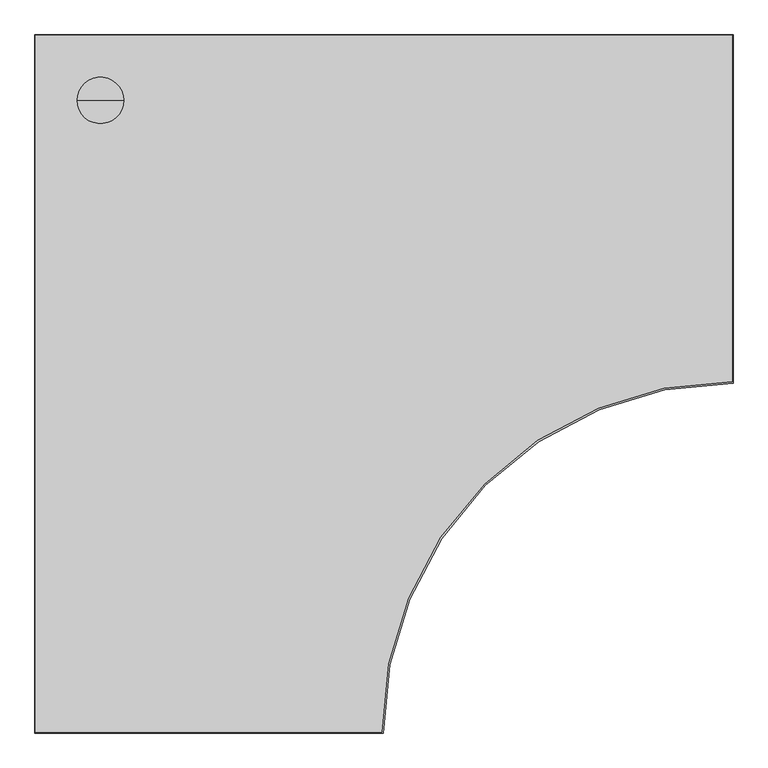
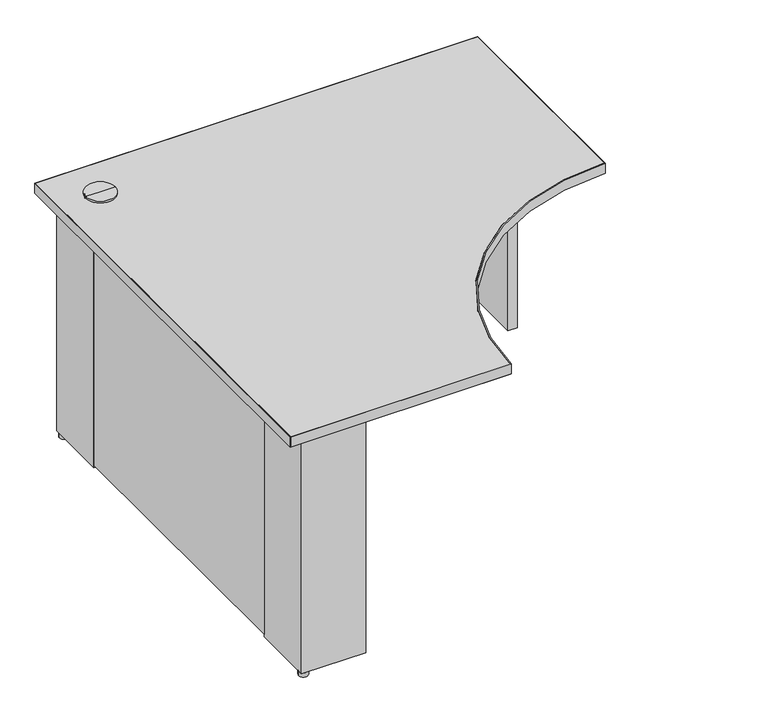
"""IFC4 building model written with IfcOpenShell, lengths in millimetres: furniture geometry, Steelcase - Kick Freestanding - Desk - Curve Corner - Full Height Modesty Panel : 24D x 48W - Two Clear Access Support - LPL."""

from ifc_helpers import new_model, si_unit, point, frame, frame_2d, origin, origin_with_axes, place, context, project, spatial, polyline, circle_curve, trimmed, segment, composite_curve, outline, extrude, source, transform, mapped, element, save
from ifc_brep_helpers import plane_surface, cylinder_surface, advanced_brep


def furniture_a24f7bdb(model_context):
    return source(origin(), model_context, "Body", "SolidModel", [
        extrude(outline(polyline([(1026.4393822, -63.5), (1026.4393822, -38.1), (1204.2393579, -38.1), (1204.2393579, -215.8999939), (1178.3313463, -215.8999939), (1178.3313463, -63.5), (1026.4393822, -63.5)])), frame((0.0, 0.0, 12.446), z_axis=(0.0, 0.0, 1.0), x_axis=(1.0, 0.0, 0.0)), (0.0, 0.0, 1.0), 682.498),
        extrude(outline(polyline([(215.8999939, -63.5), (63.5, -63.5), (63.5, -215.8999939), (38.1, -215.8999939), (38.1, -38.1), (215.8999939, -38.1), (215.8999939, -63.5)])), frame((0.0, 0.0, 12.446), z_axis=(0.0, 0.0, 1.0), x_axis=(1.0, 0.0, 0.0)), (0.0, 0.0, 1.0), 682.498),
        advanced_brep(
        [(114.3, -114.3, 728.98), (154.94, -114.3, 728.98), (73.66, -114.3, 728.98), (76.1699693, -114.3, 694.944), (152.4300307, -114.3, 694.944), (114.3, -114.3, 694.944), (76.1699693, -114.3, 723.9), (152.4300307, -114.3, 723.9), (73.66, -114.3, 723.9), (154.94, -114.3, 723.9)],
        [
            (0, 1),
            (1, 2, circle_curve(frame((114.3, -114.3, 728.98), z_axis=(0.0, 0.0, 1.0), x_axis=(1.0, 0.0, 0.0)), 40.64)),
            (2, 0),
            (2, 1, circle_curve(frame((114.3, -114.3, 728.98), z_axis=(0.0, 0.0, 1.0), x_axis=(1.0, 0.0, 0.0)), 40.64)),
            (3, 4, circle_curve(frame((114.3, -114.3, 694.944), z_axis=(0.0, 0.0, -1.0), x_axis=(1.0, 0.0, 0.0)), 38.1300307)),
            (4, 5),
            (5, 3),
            (4, 3, circle_curve(frame((114.3, -114.3, 694.944), z_axis=(0.0, 0.0, -1.0), x_axis=(1.0, 0.0, 0.0)), 38.1300307)),
            (6, 7, circle_curve(frame((114.3, -114.3, 723.9), z_axis=(0.0, 0.0, -1.0), x_axis=(1.0, 0.0, 0.0)), 38.1300307)),
            (7, 4),
            (3, 6),
            (7, 6, circle_curve(frame((114.3, -114.3, 723.9), z_axis=(0.0, 0.0, -1.0), x_axis=(1.0, 0.0, 0.0)), 38.1300307)),
            (8, 9, circle_curve(frame((114.3, -114.3, 723.9), z_axis=(0.0, 0.0, -1.0), x_axis=(1.0, 0.0, 0.0)), 40.64)),
            (9, 7),
            (6, 8),
            (9, 8, circle_curve(frame((114.3, -114.3, 723.9), z_axis=(0.0, 0.0, -1.0), x_axis=(1.0, 0.0, 0.0)), 40.64)),
            (1, 9),
            (8, 2),
        ],
        [
            plane_surface(frame((114.3, -114.3, 728.98), z_axis=(0.0, 0.0, 1.0), x_axis=(1.0, 0.0, 0.0))),
            plane_surface(frame((114.3, -114.3, 694.944), z_axis=(0.0, 0.0, -1.0), x_axis=(1.0, 0.0, 0.0))),
            cylinder_surface(frame((114.3, -114.3, 728.98), z_axis=(0.0, 0.0, 1.0), x_axis=(1.0, 0.0, 0.0)), 38.1300307),
            plane_surface(frame((114.3, -114.3, 723.9), z_axis=(0.0, 0.0, -1.0), x_axis=(1.0, 0.0, 0.0))),
            cylinder_surface(frame((114.3, -114.3, 728.98), z_axis=(0.0, 0.0, 1.0), x_axis=(1.0, 0.0, 0.0)), 40.64),
        ],
        [
            (0, [[1, 2, 3]]),
            (0, [[-3, 4, -1]]),
            (1, [[5, 6, 7]]),
            (1, [[8, -7, -6]]),
            (2, [[9, 10, -5, 11]]),
            (2, [[12, -11, -8, -10]]),
            (3, [[13, 14, -9, 15]]),
            (3, [[16, -15, -12, -14]]),
            (4, [[-2, 17, -13, 18]]),
            (4, [[-4, -18, -16, -17]]),
        ],
    ),
        extrude(outline(composite_curve([segment(trimmed(circle_curve(frame_2d((50.8, -50.8)), 12.7), [point((38.1, -50.8))], [point((63.5, -50.8))], False, "CARTESIAN"), True, "CONTINUOUS"), segment(trimmed(circle_curve(frame_2d((50.8, -50.8)), 12.7), [point((63.5, -50.8))], [point((38.1, -50.8))], False, "CARTESIAN"), True, "CONTINUOUS")], self_intersect=False)), origin_with_axes(), (0.0, 0.0, 1.0), 12.446),
        extrude(outline(composite_curve([segment(trimmed(circle_curve(frame_2d((50.8, -1192.5300073)), 12.7484998), [point((38.0515002, -1192.5300073))], [point((63.5484998, -1192.5300073))], False, "CARTESIAN"), True, "CONTINUOUS"), segment(trimmed(circle_curve(frame_2d((50.8, -1192.5300073)), 12.7484998), [point((63.5484998, -1192.5300073))], [point((38.0515002, -1192.5300073))], False, "CARTESIAN"), True, "CONTINUOUS")], self_intersect=False)), origin_with_axes(), (0.0, 0.0, 1.0), 12.446),
        extrude(outline(composite_curve([segment(trimmed(circle_curve(frame_2d((1191.2853521, -50.8)), 12.7), [point((1178.5853521, -50.8))], [point((1203.9853521, -50.8))], False, "CARTESIAN"), True, "CONTINUOUS"), segment(trimmed(circle_curve(frame_2d((1191.2853521, -50.8)), 12.7), [point((1203.9853521, -50.8))], [point((1178.5853521, -50.8))], False, "CARTESIAN"), True, "CONTINUOUS")], self_intersect=False)), origin_with_axes(), (0.0, 0.0, 1.0), 12.446),
        extrude(outline(polyline([(63.5, -215.8999939), (63.5, -1027.4300194), (38.1, -1027.4300194), (38.1, -215.8999939), (63.5, -215.8999939)])), frame((0.0, 0.0, 20.828), z_axis=(0.0, 0.0, 1.0), x_axis=(1.0, 0.0, 0.0)), (0.0, 0.0, 1.0), 674.116),
        extrude(outline(polyline([(1026.4393822, -38.1), (1026.4393822, -63.5), (215.8999939, -63.5), (215.8999939, -38.1), (1026.4393822, -38.1)])), frame((0.0, 0.0, 20.828), z_axis=(0.0, 0.0, 1.0), x_axis=(1.0, 0.0, 0.0)), (0.0, 0.0, 1.0), 674.116),
        extrude(outline(polyline([(215.8999939, -1179.8300194), (215.8999939, -1205.2299952), (38.1, -1205.2299952), (38.1, -1027.4300194), (63.5, -1027.4300194), (63.5, -1179.8300194), (215.8999939, -1179.8300194)])), frame((0.0, 0.0, 12.446), z_axis=(0.0, 0.0, 1.0), x_axis=(1.0, 0.0, 0.0)), (0.0, 0.0, 1.0), 682.498),
        extrude(outline(composite_curve([segment(polyline([(0.9906, -1218.2093628), (0.9906, -0.9906), (1218.2093628, -0.9906), (1218.2093628, -605.3354109)]), True, "CONTINUOUS"), segment(trimmed(circle_curve(frame_2d((1216.9393458, -1216.9393458)), 611.6052536), [point((1218.2093628, -605.3354109))], [point((605.3354109, -1218.2093628))], True, "CARTESIAN"), True, "CONTINUOUS"), segment(polyline([(605.3354109, -1218.2093628), (0.9906, -1218.2093628)]), True, "CONTINUOUS")], self_intersect=False)), frame((0.0, 0.0, 694.944), z_axis=(0.0, 0.0, 1.0), x_axis=(1.0, 0.0, 0.0)), (0.0, 0.0, 1.0), 28.956),
        extrude(outline(composite_curve([segment(polyline([(1219.2, 0.0), (1219.2, -608.332629)]), True, "CONTINUOUS"), segment(trimmed(circle_curve(frame_2d((1217.929983, -1217.929983)), 609.598677), [point((1219.2, -608.332629))], [point((608.332629, -1219.2))], True, "CARTESIAN"), True, "CONTINUOUS"), segment(polyline([(608.332629, -1219.2), (0.0, -1219.2), (0.0, 0.0), (1219.2, 0.0)]), True, "CONTINUOUS")], self_intersect=False), holes=[composite_curve([segment(polyline([(1218.2093628, -0.9906), (0.9906, -0.9906), (0.9906, -1218.2093628), (605.3354109, -1218.2093628)]), True, "CONTINUOUS"), segment(trimmed(circle_curve(frame_2d((1216.9393458, -1216.9393458)), 611.6052536), [point((605.3354109, -1218.2093628))], [point((1218.2093628, -605.3354109))], False, "CARTESIAN"), True, "CONTINUOUS"), segment(polyline([(1218.2093628, -605.3354109), (1218.2093628, -0.9906)]), True, "CONTINUOUS")], self_intersect=False)]), frame((0.0, 0.0, 694.944), z_axis=(0.0, 0.0, 1.0), x_axis=(1.0, 0.0, 0.0)), (0.0, 0.0, 1.0), 28.956),
    ])


if __name__ == "__main__":
    model = new_model("IFC4")
    model_context = context("Model", 3, world=origin())
    ifc_project = project(units=[si_unit("LENGTHUNIT", "METRE", prefix="MILLI")], contexts=[model_context])
    site = spatial("IfcSite", under=ifc_project)
    building = spatial("IfcBuilding", under=site)
    placement = place(None, origin())
    furniture_shape = furniture_a24f7bdb(model_context)
    element("IfcFurniture", 1, ObjectType="Steelcase - Kick Freestanding - Desk - Curve Corner - Full Height Modesty Panel : 24D x 48W - Two Clear Access Support - LPL", at=placement, inside=building, context=model_context, shape_type="MappedRepresentation", body=[
        mapped(furniture_shape, transform((0.0, 0.0, 0.0), x_axis=(1.0, 0.0, 0.0), y_axis=(0.0, 1.0, 0.0), z_axis=(0.0, 0.0, 1.0))),
    ])
    save(model, "model.ifc")
